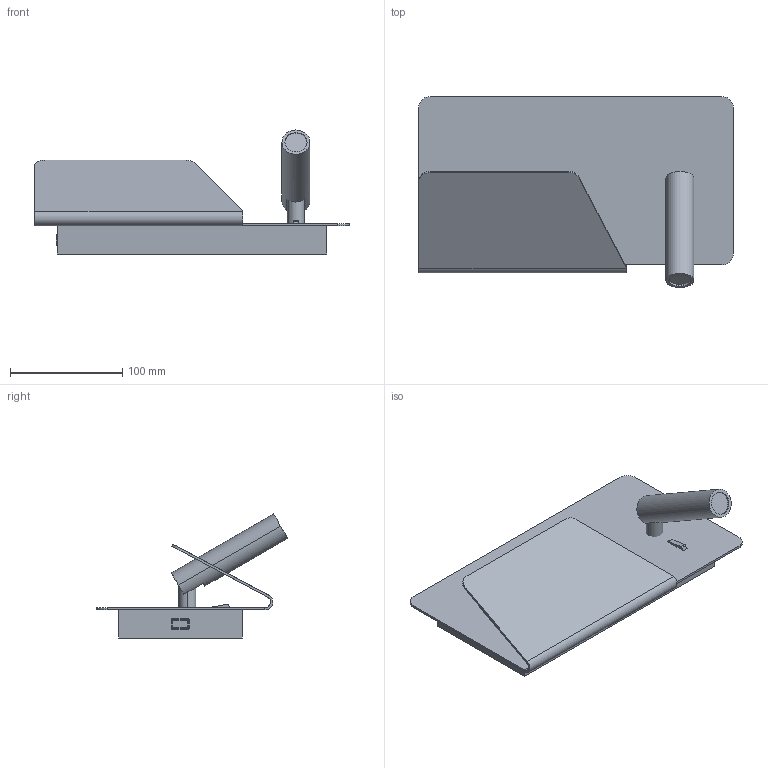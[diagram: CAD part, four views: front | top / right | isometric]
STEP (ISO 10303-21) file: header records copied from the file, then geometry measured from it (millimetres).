
FILE_DESCRIPTION(/* description */ (''),/* implementation_level */ '2;1');
FILE_NAME(/* name */ 'C:\Users\Franco Sartori E\Documents\FARO\DUPLICADO\Modelos\01_Digitalizados\0_SUAU\03_Publicación\62125 - Vista 3D - Export.stp',/* time_stamp */ '2020-07-15T10:17:46+02:00',/* author */ ('Franco Sartori E'),/* organization */ (''),/* preprocessor_version */ 'ST-DEVELOPER v18',/* originating_system */ 'AutoCAD Mechanical',/* authorisation */ '');
FILE_SCHEMA (('AUTOMOTIVE_DESIGN { 1 0 10303 214 3 1 1 }'));
Length unit declared in the file: millimetre
Products named in the file (2): Product; 62124_62125_SUAU - SUAU-456340-Export
Assembly tree (1 placements, depth 2):
  Product
    62124_62125_SUAU - SUAU-456340-Export
Bounding box: 280 x 170.25 x 110.43 mm (x, y, z)
Volume: 235903.4 mm3; surface area: 247539.7 mm2
Topology: 9 solids, 9 shells, 117 faces, 291 edges, 194 vertices
Faces by surface type: plane 77, cylinder 40
Entity records: 3572 total; most frequent: DIRECTION 613, CARTESIAN_POINT 605, ORIENTED_EDGE 582, EDGE_CURVE 291, LINE 209, VECTOR 209, AXIS2_PLACEMENT_3D 202, VERTEX_POINT 194
